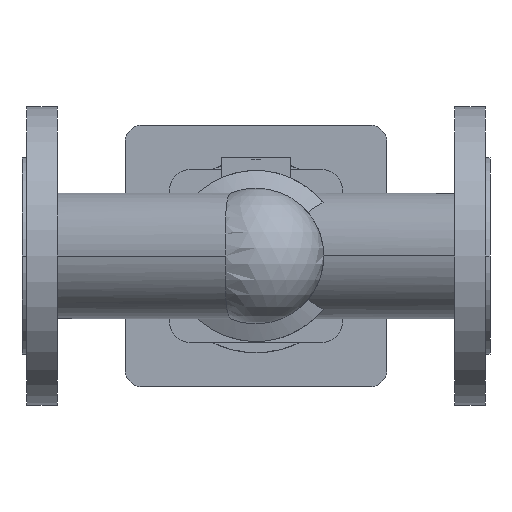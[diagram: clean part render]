
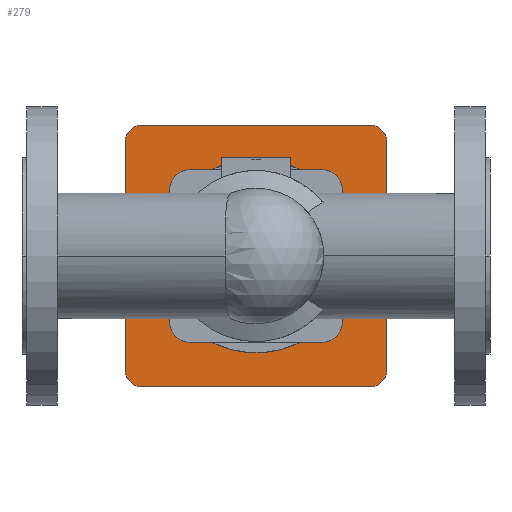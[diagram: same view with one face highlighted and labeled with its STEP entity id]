
A CAD part, front view. The second image highlights one B-rep face of the part: STEP entity #279.
In plain terms, the highlighted planar face has unit normal (0, -1, 0).
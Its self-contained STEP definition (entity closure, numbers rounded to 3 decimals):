
#279 = ADVANCED_FACE( '', ( #667, #668 ), #669, .F. );
#667 = FACE_OUTER_BOUND( '', #1081, .T. );
#668 = FACE_BOUND( '', #1082, .T. );
#669 = PLANE( '', #1083 );
#1081 = EDGE_LOOP( '', ( #2372, #2373, #2374, #2375, #2376, #2377, #2378, #2379 ) );
#1082 = EDGE_LOOP( '', ( #2380, #2381 ) );
#1083 = AXIS2_PLACEMENT_3D( '', #2382, #2383, #2384 );
#2372 = ORIENTED_EDGE( '', *, *, #2949, .F. );
#2373 = ORIENTED_EDGE( '', *, *, #2950, .F. );
#2374 = ORIENTED_EDGE( '', *, *, #2951, .F. );
#2375 = ORIENTED_EDGE( '', *, *, #2952, .F. );
#2376 = ORIENTED_EDGE( '', *, *, #2953, .F. );
#2377 = ORIENTED_EDGE( '', *, *, #2954, .F. );
#2378 = ORIENTED_EDGE( '', *, *, #2955, .F. );
#2379 = ORIENTED_EDGE( '', *, *, #2956, .F. );
#2380 = ORIENTED_EDGE( '', *, *, #2864, .F. );
#2381 = ORIENTED_EDGE( '', *, *, #2957, .F. );
#2382 = CARTESIAN_POINT( '', ( 145., 432., 0. ) );
#2383 = DIRECTION( '', ( 0., 1., 0. ) );
#2384 = DIRECTION( '', ( 0., 0., 1. ) );
#2864 = EDGE_CURVE( '', #3519, #3522, #3523, .T. );
#2949 = EDGE_CURVE( '', #3666, #3667, #3668, .T. );
#2950 = EDGE_CURVE( '', #3669, #3666, #3670, .T. );
#2951 = EDGE_CURVE( '', #3671, #3669, #3672, .T. );
#2952 = EDGE_CURVE( '', #3673, #3671, #3674, .T. );
#2953 = EDGE_CURVE( '', #3675, #3673, #3676, .T. );
#2954 = EDGE_CURVE( '', #3677, #3675, #3678, .T. );
#2955 = EDGE_CURVE( '', #3679, #3677, #3680, .T. );
#2956 = EDGE_CURVE( '', #3667, #3679, #3681, .T. );
#2957 = EDGE_CURVE( '', #3522, #3519, #3682, .T. );
#3519 = VERTEX_POINT( '', #4928 );
#3522 = VERTEX_POINT( '', #4932 );
#3523 = CIRCLE( '', #4933, 40. );
#3666 = VERTEX_POINT( '', #5131 );
#3667 = VERTEX_POINT( '', #5132 );
#3668 = CIRCLE( '', #5133, 10. );
#3669 = VERTEX_POINT( '', #5134 );
#3670 = LINE( '', #5135, #5136 );
#3671 = VERTEX_POINT( '', #5137 );
#3672 = CIRCLE( '', #5138, 10. );
#3673 = VERTEX_POINT( '', #5139 );
#3674 = LINE( '', #5140, #5141 );
#3675 = VERTEX_POINT( '', #5142 );
#3676 = CIRCLE( '', #5143, 10. );
#3677 = VERTEX_POINT( '', #5144 );
#3678 = LINE( '', #5145, #5146 );
#3679 = VERTEX_POINT( '', #5147 );
#3680 = CIRCLE( '', #5148, 10. );
#3681 = LINE( '', #5149, #5150 );
#3682 = CIRCLE( '', #5151, 40. );
#4928 = CARTESIAN_POINT( '', ( 105., 432., 0. ) );
#4932 = CARTESIAN_POINT( '', ( 185., 432., 0. ) );
#4933 = AXIS2_PLACEMENT_3D( '', #5818, #5819, #5820 );
#5131 = CARTESIAN_POINT( '', ( 64., 432., 71. ) );
#5132 = CARTESIAN_POINT( '', ( 74., 432., 81. ) );
#5133 = AXIS2_PLACEMENT_3D( '', #5963, #5964, #5965 );
#5134 = CARTESIAN_POINT( '', ( 64., 432., -71. ) );
#5135 = CARTESIAN_POINT( '', ( 64., 432., -71. ) );
#5136 = VECTOR( '', #5966, 1. );
#5137 = CARTESIAN_POINT( '', ( 74., 432., -81. ) );
#5138 = AXIS2_PLACEMENT_3D( '', #5967, #5968, #5969 );
#5139 = CARTESIAN_POINT( '', ( 216., 432., -81. ) );
#5140 = CARTESIAN_POINT( '', ( 216., 432., -81. ) );
#5141 = VECTOR( '', #5970, 1. );
#5142 = CARTESIAN_POINT( '', ( 226., 432., -71. ) );
#5143 = AXIS2_PLACEMENT_3D( '', #5971, #5972, #5973 );
#5144 = CARTESIAN_POINT( '', ( 226., 432., 71. ) );
#5145 = CARTESIAN_POINT( '', ( 226., 432., 71. ) );
#5146 = VECTOR( '', #5974, 1. );
#5147 = CARTESIAN_POINT( '', ( 216., 432., 81. ) );
#5148 = AXIS2_PLACEMENT_3D( '', #5975, #5976, #5977 );
#5149 = CARTESIAN_POINT( '', ( 74., 432., 81. ) );
#5150 = VECTOR( '', #5978, 1. );
#5151 = AXIS2_PLACEMENT_3D( '', #5979, #5980, #5981 );
#5818 = CARTESIAN_POINT( '', ( 145., 432., 0. ) );
#5819 = DIRECTION( '', ( 0., -1., 0. ) );
#5820 = DIRECTION( '', ( -1., 0., 0. ) );
#5963 = CARTESIAN_POINT( '', ( 74., 432., 71. ) );
#5964 = DIRECTION( '', ( 0., 1., 0. ) );
#5965 = DIRECTION( '', ( -1., 0., 0. ) );
#5966 = DIRECTION( '', ( 0., 0., 1. ) );
#5967 = CARTESIAN_POINT( '', ( 74., 432., -71. ) );
#5968 = DIRECTION( '', ( 0., 1., 0. ) );
#5969 = DIRECTION( '', ( 0., 0., -1. ) );
#5970 = DIRECTION( '', ( -1., 0., 0. ) );
#5971 = CARTESIAN_POINT( '', ( 216., 432., -71. ) );
#5972 = DIRECTION( '', ( 0., 1., 0. ) );
#5973 = DIRECTION( '', ( 1., 0., 0. ) );
#5974 = DIRECTION( '', ( 0., 0., -1. ) );
#5975 = CARTESIAN_POINT( '', ( 216., 432., 71. ) );
#5976 = DIRECTION( '', ( 0., 1., 0. ) );
#5977 = DIRECTION( '', ( 0., 0., 1. ) );
#5978 = DIRECTION( '', ( 1., 0., 0. ) );
#5979 = CARTESIAN_POINT( '', ( 145., 432., 0. ) );
#5980 = DIRECTION( '', ( 0., -1., 0. ) );
#5981 = DIRECTION( '', ( -1., 0., 0. ) );
